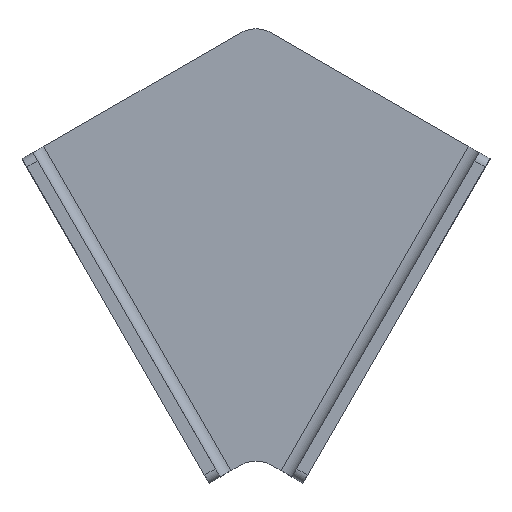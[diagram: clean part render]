
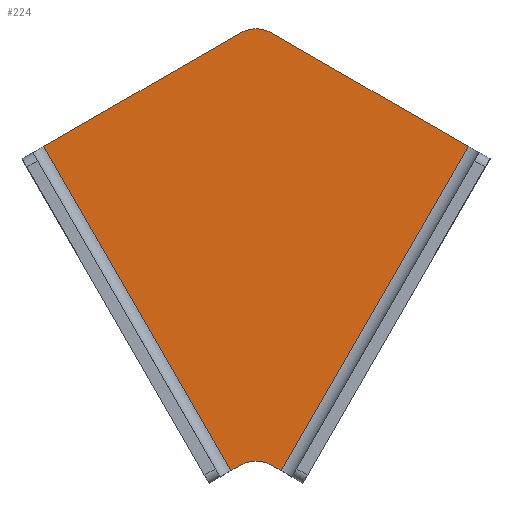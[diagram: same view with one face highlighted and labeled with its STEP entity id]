
A CAD part, top view. The second image highlights one B-rep face of the part: STEP entity #224.
In plain terms, the highlighted planar face has unit normal (0, 0, 1).
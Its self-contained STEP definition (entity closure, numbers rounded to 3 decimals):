
#4 = ORIENTED_EDGE ( 'NONE', *, *, #510, .T. ) ;
#36 = DIRECTION ( 'NONE',  ( -0.866, 0.5, 0. ) ) ;
#58 = LINE ( 'NONE', #735, #1558 ) ;
#124 = DIRECTION ( 'NONE',  ( 0.5, -0.866, 0. ) ) ;
#126 = CARTESIAN_POINT ( 'NONE',  ( 23.072, 4., 4. ) ) ;
#162 = DIRECTION ( 'NONE',  ( 0.866, -0.5, 0. ) ) ;
#204 = VECTOR ( 'NONE', #162, 1000. ) ;
#218 = CIRCLE ( 'NONE', #550, 10. ) ;
#224 = ADVANCED_FACE ( 'NONE', ( #464 ), #241, .T. ) ;
#241 = PLANE ( 'NONE',  #701 ) ;
#285 = CARTESIAN_POINT ( 'NONE',  ( 15., -2.887, 4. ) ) ;
#289 = EDGE_CURVE ( 'NONE', #911, #938, #58, .T. ) ;
#318 = LINE ( 'NONE', #1824, #635 ) ;
#329 = CARTESIAN_POINT ( 'NONE',  ( 20., 5.774, 4. ) ) ;
#350 = DIRECTION ( 'NONE',  ( 0., 0., 1. ) ) ;
#352 = EDGE_CURVE ( 'NONE', #742, #1397, #318, .T. ) ;
#408 = DIRECTION ( 'NONE',  ( 0.866, 0.5, 0. ) ) ;
#414 = EDGE_LOOP ( 'NONE', ( #1218, #903, #592, #734, #1003, #4, #669, #1011 ) ) ;
#438 = DIRECTION ( 'NONE',  ( 1., 0., 0. ) ) ;
#464 = FACE_OUTER_BOUND ( 'NONE', #414, .T. ) ;
#501 = VECTOR ( 'NONE', #408, 1000. ) ;
#510 = EDGE_CURVE ( 'NONE', #1397, #1698, #1490, .T. ) ;
#520 = EDGE_CURVE ( 'NONE', #1976, #679, #1439, .T. ) ;
#549 = CARTESIAN_POINT ( 'NONE',  ( 0., 0., 4. ) ) ;
#550 = AXIS2_PLACEMENT_3D ( 'NONE', #1289, #350, #1446 ) ;
#592 = ORIENTED_EDGE ( 'NONE', *, *, #689, .T. ) ;
#635 = VECTOR ( 'NONE', #904, 1000. ) ;
#669 = ORIENTED_EDGE ( 'NONE', *, *, #1910, .T. ) ;
#679 = VERTEX_POINT ( 'NONE', #329 ) ;
#689 = EDGE_CURVE ( 'NONE', #938, #1746, #1182, .T. ) ;
#701 = AXIS2_PLACEMENT_3D ( 'NONE', #549, #1640, #715 ) ;
#715 = DIRECTION ( 'NONE',  ( 1., 0., 0. ) ) ;
#734 = ORIENTED_EDGE ( 'NONE', *, *, #1680, .T. ) ;
#735 = CARTESIAN_POINT ( 'NONE',  ( 15.572, -8.99, 4. ) ) ;
#742 = VERTEX_POINT ( 'NONE', #1631 ) ;
#811 = CARTESIAN_POINT ( 'NONE',  ( -53.072, 107.923, 4. ) ) ;
#888 = CARTESIAN_POINT ( 'NONE',  ( 0., 0., 4. ) ) ;
#903 = ORIENTED_EDGE ( 'NONE', *, *, #289, .T. ) ;
#904 = DIRECTION ( 'NONE',  ( -0.866, -0.5, 0. ) ) ;
#911 = VERTEX_POINT ( 'NONE', #126 ) ;
#938 = VERTEX_POINT ( 'NONE', #1710 ) ;
#971 = CARTESIAN_POINT ( 'NONE',  ( 90., 103.923, 4. ) ) ;
#995 = CARTESIAN_POINT ( 'NONE',  ( 20., 144.338, 4. ) ) ;
#1003 = ORIENTED_EDGE ( 'NONE', *, *, #352, .T. ) ;
#1011 = ORIENTED_EDGE ( 'NONE', *, *, #520, .T. ) ;
#1036 = CARTESIAN_POINT ( 'NONE',  ( 10., 5.774, 4. ) ) ;
#1107 = CARTESIAN_POINT ( 'NONE',  ( 30., 0., 4. ) ) ;
#1182 = LINE ( 'NONE', #971, #1996 ) ;
#1213 = CARTESIAN_POINT ( 'NONE',  ( 6.928, 4., 4. ) ) ;
#1218 = ORIENTED_EDGE ( 'NONE', *, *, #1312, .T. ) ;
#1266 = AXIS2_PLACEMENT_3D ( 'NONE', #285, #1368, #438 ) ;
#1289 = CARTESIAN_POINT ( 'NONE',  ( 15., 135.677, 4. ) ) ;
#1312 = EDGE_CURVE ( 'NONE', #679, #911, #1385, .T. ) ;
#1368 = DIRECTION ( 'NONE',  ( 0., 0., -1. ) ) ;
#1378 = LINE ( 'NONE', #888, #501 ) ;
#1385 = LINE ( 'NONE', #1107, #204 ) ;
#1397 = VERTEX_POINT ( 'NONE', #811 ) ;
#1439 = CIRCLE ( 'NONE', #1266, 10. ) ;
#1446 = DIRECTION ( 'NONE',  ( 1., 0., 0. ) ) ;
#1490 = LINE ( 'NONE', #1213, #1946 ) ;
#1500 = DIRECTION ( 'NONE',  ( 0.5, 0.866, 0. ) ) ;
#1558 = VECTOR ( 'NONE', #1500, 1000. ) ;
#1631 = CARTESIAN_POINT ( 'NONE',  ( 10., 144.338, 4. ) ) ;
#1640 = DIRECTION ( 'NONE',  ( 0., 0., 1. ) ) ;
#1680 = EDGE_CURVE ( 'NONE', #1746, #742, #218, .T. ) ;
#1698 = VERTEX_POINT ( 'NONE', #1749 ) ;
#1710 = CARTESIAN_POINT ( 'NONE',  ( 83.072, 107.923, 4. ) ) ;
#1746 = VERTEX_POINT ( 'NONE', #995 ) ;
#1749 = CARTESIAN_POINT ( 'NONE',  ( 6.928, 4., 4. ) ) ;
#1824 = CARTESIAN_POINT ( 'NONE',  ( -60., 103.923, 4. ) ) ;
#1910 = EDGE_CURVE ( 'NONE', #1698, #1976, #1378, .T. ) ;
#1946 = VECTOR ( 'NONE', #124, 1000. ) ;
#1976 = VERTEX_POINT ( 'NONE', #1036 ) ;
#1996 = VECTOR ( 'NONE', #36, 1000. ) ;
